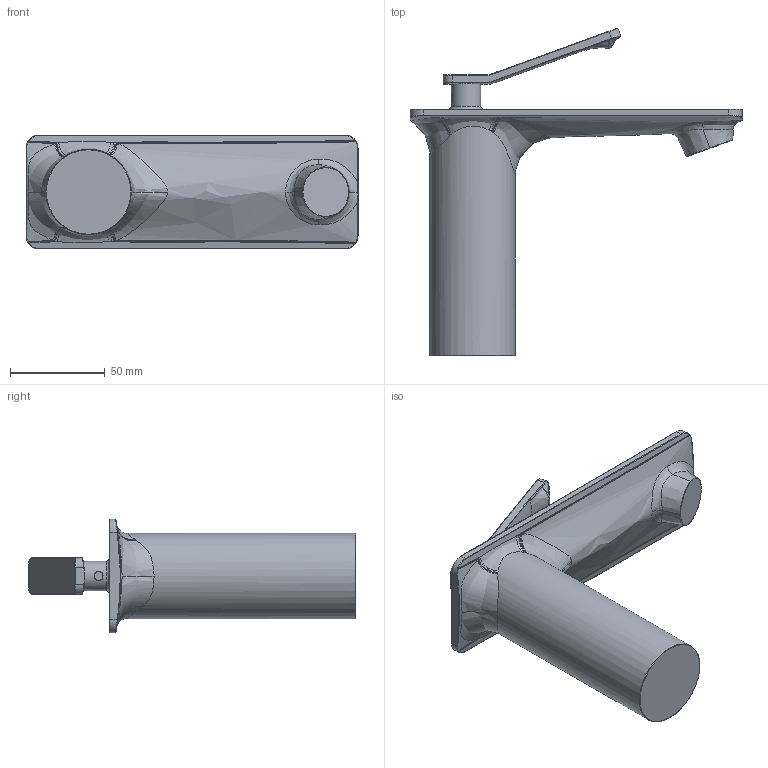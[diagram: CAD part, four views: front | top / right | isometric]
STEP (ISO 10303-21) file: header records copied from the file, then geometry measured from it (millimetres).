
FILE_DESCRIPTION(/* description */ (''),/* implementation_level */ '2;1');
FILE_NAME(/* name */ 'X:\Utilisateurs\Simon\PS01 3D.stp',/* time_stamp */ '2017-01-03T16:37:15-05:00',/* author */ ('simonb'),/* organization */ (''),/* preprocessor_version */ 'ST-DEVELOPER v15.6',/* originating_system */ 'Autodesk Inventor 2015',/* authorisation */ '');
FILE_SCHEMA (('AUTOMOTIVE_DESIGN { 1 0 10303 214 3 1 1 }'));
Length unit declared in the file: millimetre
Products named in the file (1): PS01 3D
Bounding box: 175 x 172.68 x 60 mm (x, y, z)
Volume: 296254.1 mm3; surface area: 45729.2 mm2
Topology: 1 solids, 1 shells, 170 faces, 397 edges, 232 vertices
Faces by surface type: bspline 107, cylinder 30, plane 16, torus 15, cone 2
Full cylindrical faces by diameter (mm): 15.5 x1, 45 x1
Entity records: 12093 total; most frequent: CARTESIAN_POINT 8665, ORIENTED_EDGE 784, DIRECTION 479, EDGE_CURVE 392, VERTEX_POINT 231, AXIS2_PLACEMENT_3D 212, B_SPLINE_CURVE_WITH_KNOTS 189, EDGE_LOOP 177
